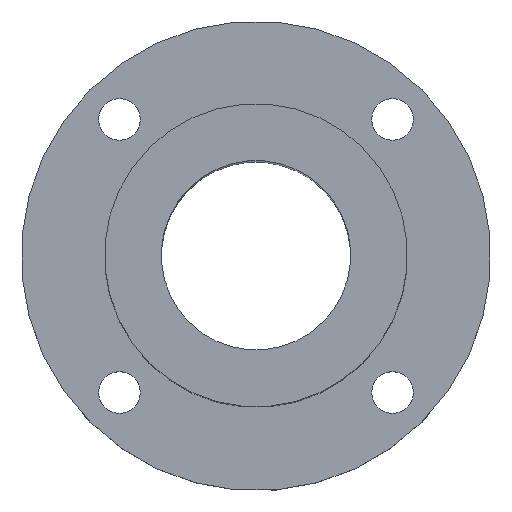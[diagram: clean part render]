
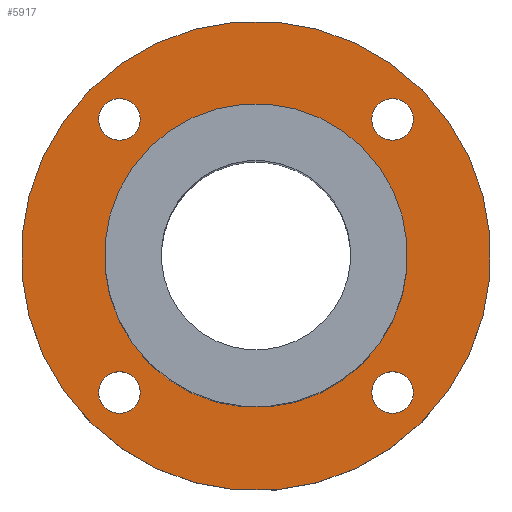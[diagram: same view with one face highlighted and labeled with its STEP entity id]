
A CAD part, top view. The second image highlights one B-rep face of the part: STEP entity #5917.
In plain terms, the highlighted planar face has unit normal (0, 0, 1).
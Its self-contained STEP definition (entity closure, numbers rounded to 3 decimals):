
#110=CIRCLE('',#6287,20.);
#114=CIRCLE('',#6295,31.);
#115=CIRCLE('',#6297,2.75);
#116=CIRCLE('',#6298,2.75);
#117=CIRCLE('',#6299,2.75);
#118=CIRCLE('',#6300,2.75);
#527=ORIENTED_EDGE('',*,*,#2229,.F.);
#528=ORIENTED_EDGE('',*,*,#2230,.F.);
#529=ORIENTED_EDGE('',*,*,#2231,.F.);
#530=ORIENTED_EDGE('',*,*,#2232,.F.);
#531=ORIENTED_EDGE('',*,*,#2224,.T.);
#532=ORIENTED_EDGE('',*,*,#2228,.T.);
#2224=EDGE_CURVE('',#3078,#3078,#110,.F.);
#2228=EDGE_CURVE('',#3082,#3082,#114,.T.);
#2229=EDGE_CURVE('',#3083,#3083,#115,.T.);
#2230=EDGE_CURVE('',#3084,#3084,#116,.T.);
#2231=EDGE_CURVE('',#3085,#3085,#117,.T.);
#2232=EDGE_CURVE('',#3086,#3086,#118,.T.);
#3078=VERTEX_POINT('',#9347);
#3082=VERTEX_POINT('',#9359);
#3083=VERTEX_POINT('',#9362);
#3084=VERTEX_POINT('',#9364);
#3085=VERTEX_POINT('',#9366);
#3086=VERTEX_POINT('',#9368);
#4860=EDGE_LOOP('',(#527));
#4861=EDGE_LOOP('',(#528));
#4862=EDGE_LOOP('',(#529));
#4863=EDGE_LOOP('',(#530));
#4864=EDGE_LOOP('',(#531));
#4865=EDGE_LOOP('',(#532));
#5280=FACE_BOUND('',#4860,.T.);
#5281=FACE_BOUND('',#4861,.T.);
#5282=FACE_BOUND('',#4862,.T.);
#5283=FACE_BOUND('',#4863,.T.);
#5284=FACE_BOUND('',#4864,.T.);
#5285=FACE_BOUND('',#4865,.T.);
#5642=PLANE('',#6296);
#5917=ADVANCED_FACE('',(#5280,#5281,#5282,#5283,#5284,#5285),#5642,.T.);
#6287=AXIS2_PLACEMENT_3D('',#9346,#6837,#6838);
#6295=AXIS2_PLACEMENT_3D('',#9358,#6853,#6854);
#6296=AXIS2_PLACEMENT_3D('',#9360,#6855,#6856);
#6297=AXIS2_PLACEMENT_3D('',#9361,#6857,#6858);
#6298=AXIS2_PLACEMENT_3D('',#9363,#6859,#6860);
#6299=AXIS2_PLACEMENT_3D('',#9365,#6861,#6862);
#6300=AXIS2_PLACEMENT_3D('',#9367,#6863,#6864);
#6837=DIRECTION('',(0.,0.,1.));
#6838=DIRECTION('',(0.707,-0.707,0.));
#6853=DIRECTION('',(0.,0.,1.));
#6854=DIRECTION('',(0.707,-0.707,0.));
#6855=DIRECTION('',(0.,0.,1.));
#6856=DIRECTION('',(0.707,-0.707,0.));
#6857=DIRECTION('',(0.,0.,1.));
#6858=DIRECTION('',(0.707,-0.707,0.));
#6859=DIRECTION('',(0.,0.,1.));
#6860=DIRECTION('',(0.707,-0.707,0.));
#6861=DIRECTION('',(0.,0.,1.));
#6862=DIRECTION('',(0.707,-0.707,0.));
#6863=DIRECTION('',(0.,0.,1.));
#6864=DIRECTION('',(0.707,-0.707,0.));
#9346=CARTESIAN_POINT('',(0.,0.,0.));
#9347=CARTESIAN_POINT('',(14.142,-14.142,0.));
#9358=CARTESIAN_POINT('',(0.,0.,0.));
#9359=CARTESIAN_POINT('',(21.92,-21.92,0.));
#9360=CARTESIAN_POINT('',(0.,0.,0.));
#9361=CARTESIAN_POINT('',(18.031,18.031,0.));
#9362=CARTESIAN_POINT('',(19.976,16.087,0.));
#9363=CARTESIAN_POINT('',(-18.031,18.031,0.));
#9364=CARTESIAN_POINT('',(-16.087,16.087,0.));
#9365=CARTESIAN_POINT('',(-18.031,-18.031,0.));
#9366=CARTESIAN_POINT('',(-16.087,-19.976,0.));
#9367=CARTESIAN_POINT('',(18.031,-18.031,0.));
#9368=CARTESIAN_POINT('',(19.976,-19.976,0.));
